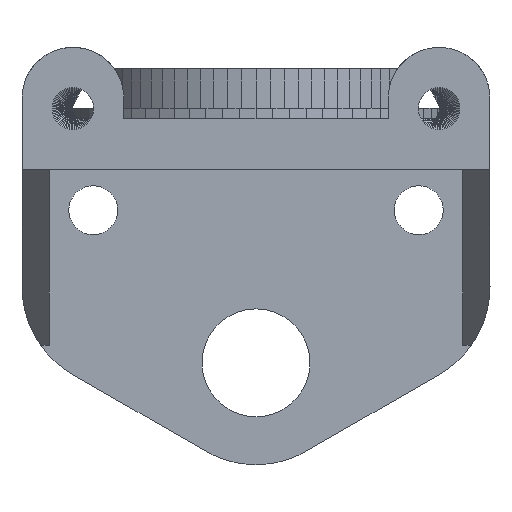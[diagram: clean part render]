
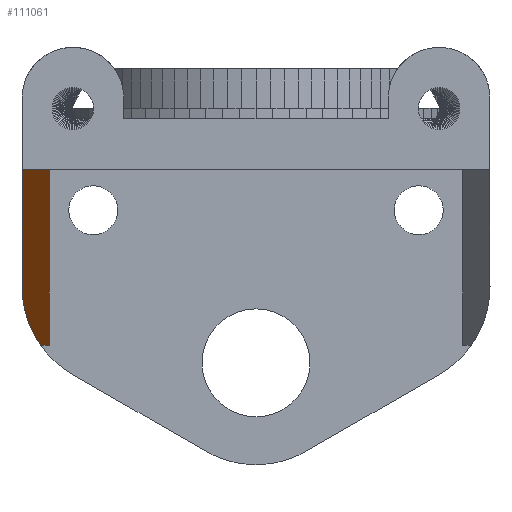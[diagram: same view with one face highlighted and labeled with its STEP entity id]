
A CAD part, front view. The second image highlights one B-rep face of the part: STEP entity #111061.
In plain terms, the highlighted planar face has unit normal (0, -0.464, -0.886).
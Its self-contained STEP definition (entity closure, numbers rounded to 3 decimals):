
#1521 = VERTEX_POINT ( 'NONE', #47573 ) ;
#2142 = CARTESIAN_POINT ( 'NONE',  ( 6.918, 9.5, 0.866 ) ) ;
#2819 = VECTOR ( 'NONE', #60820, 1000. ) ;
#6448 = VECTOR ( 'NONE', #129012, 1000. ) ;
#7340 = CARTESIAN_POINT ( 'NONE',  ( 6.468, 8.021, 1.64 ) ) ;
#8708 = ORIENTED_EDGE ( 'NONE', *, *, #10657, .T. ) ;
#10657 = EDGE_CURVE ( 'NONE', #56462, #95380, #102476, .T. ) ;
#11399 = VERTEX_POINT ( 'NONE', #127273 ) ;
#14552 = LINE ( 'NONE', #160464, #139097 ) ;
#14832 = EDGE_CURVE ( 'NONE', #122708, #117821, #119405, .T. ) ;
#15352 = ORIENTED_EDGE ( 'NONE', *, *, #33399, .T. ) ;
#16043 = VERTEX_POINT ( 'NONE', #7340 ) ;
#20482 = EDGE_CURVE ( 'NONE', #11399, #129184, #109081, .T. ) ;
#22561 = EDGE_CURVE ( 'NONE', #62438, #1521, #32833, .T. ) ;
#22731 = ORIENTED_EDGE ( 'NONE', *, *, #127344, .F. ) ;
#27300 = LINE ( 'NONE', #90746, #6448 ) ;
#32833 = LINE ( 'NONE', #109307, #153268 ) ;
#33399 = EDGE_CURVE ( 'NONE', #95707, #11399, #167484, .T. ) ;
#35127 = ORIENTED_EDGE ( 'NONE', *, *, #20482, .T. ) ;
#36042 = PLANE ( 'NONE',  #117987 ) ;
#38283 = VERTEX_POINT ( 'NONE', #94949 ) ;
#39443 = DIRECTION ( 'NONE',  ( 0., -0.464, -0.886 ) ) ;
#41384 = LINE ( 'NONE', #69177, #105846 ) ;
#42331 = DIRECTION ( 'NONE',  ( 0.235, 0.861, -0.451 ) ) ;
#47573 = CARTESIAN_POINT ( 'NONE',  ( 6., -7., 9.5 ) ) ;
#48728 = CARTESIAN_POINT ( 'NONE',  ( 7.35, 9.5, 0.866 ) ) ;
#49096 = DIRECTION ( 'NONE',  ( 0., 0.886, -0.464 ) ) ;
#49942 = LINE ( 'NONE', #102891, #154664 ) ;
#53364 = VECTOR ( 'NONE', #121128, 1000. ) ;
#53768 = VECTOR ( 'NONE', #89268, 1000. ) ;
#56462 = VERTEX_POINT ( 'NONE', #155993 ) ;
#60820 = DIRECTION ( 'NONE',  ( 0.144, 0.877, -0.459 ) ) ;
#62438 = VERTEX_POINT ( 'NONE', #108657 ) ;
#65180 = CARTESIAN_POINT ( 'NONE',  ( 6.076, 5.643, 2.885 ) ) ;
#67551 = LINE ( 'NONE', #120527, #118627 ) ;
#69075 = EDGE_CURVE ( 'NONE', #95380, #16043, #41384, .T. ) ;
#69177 = CARTESIAN_POINT ( 'NONE',  ( 6.302, 7.251, 2.043 ) ) ;
#69658 = VECTOR ( 'NONE', #71686, 1000. ) ;
#70223 = DIRECTION ( 'NONE',  ( -1., 0., 0. ) ) ;
#71686 = DIRECTION ( 'NONE',  ( 0.102, 0.881, -0.461 ) ) ;
#73641 = ORIENTED_EDGE ( 'NONE', *, *, #69075, .T. ) ;
#75343 = VECTOR ( 'NONE', #147277, 1000. ) ;
#80674 = ORIENTED_EDGE ( 'NONE', *, *, #104761, .T. ) ;
#81296 = CARTESIAN_POINT ( 'NONE',  ( 6.019, 4.814, 3.318 ) ) ;
#81697 = LINE ( 'NONE', #85118, #139009 ) ;
#85118 = CARTESIAN_POINT ( 'NONE',  ( 6., -7., 9.5 ) ) ;
#86707 = CARTESIAN_POINT ( 'NONE',  ( 6., 3.983, 3.753 ) ) ;
#87296 = ORIENTED_EDGE ( 'NONE', *, *, #123112, .T. ) ;
#89268 = DIRECTION ( 'NONE',  ( 0.02, 0.886, -0.464 ) ) ;
#90524 = CARTESIAN_POINT ( 'NONE',  ( 6.904, 9.463, 0.885 ) ) ;
#90746 = CARTESIAN_POINT ( 'NONE',  ( 7.35, -7., 9.5 ) ) ;
#94014 = ORIENTED_EDGE ( 'NONE', *, *, #117419, .T. ) ;
#94949 = CARTESIAN_POINT ( 'NONE',  ( 6.67, 8.761, 1.253 ) ) ;
#95380 = VERTEX_POINT ( 'NONE', #124334 ) ;
#95707 = VERTEX_POINT ( 'NONE', #137156 ) ;
#102476 = LINE ( 'NONE', #140717, #2819 ) ;
#102891 = CARTESIAN_POINT ( 'NONE',  ( 7.35, 9.5, 0.866 ) ) ;
#104604 = FACE_OUTER_BOUND ( 'NONE', #161284, .T. ) ;
#104761 = EDGE_CURVE ( 'NONE', #16043, #38283, #14552, .T. ) ;
#105449 = DIRECTION ( 'NONE',  ( 1., 0., 0. ) ) ;
#105846 = VECTOR ( 'NONE', #123013, 1000. ) ;
#106409 = EDGE_CURVE ( 'NONE', #129184, #56462, #165439, .T. ) ;
#108657 = CARTESIAN_POINT ( 'NONE',  ( 7.35, -7., 9.5 ) ) ;
#109081 = LINE ( 'NONE', #81296, #75343 ) ;
#109307 = CARTESIAN_POINT ( 'NONE',  ( 7.35, -7., 9.5 ) ) ;
#111061 = ADVANCED_FACE ( 'NONE', ( #104604 ), #36042, .T. ) ;
#113937 = VERTEX_POINT ( 'NONE', #48728 ) ;
#117419 = EDGE_CURVE ( 'NONE', #122708, #113937, #49942, .T. ) ;
#117821 = VERTEX_POINT ( 'NONE', #90524 ) ;
#117987 = AXIS2_PLACEMENT_3D ( 'NONE', #129825, #39443, #49096 ) ;
#118627 = VECTOR ( 'NONE', #148296, 1000. ) ;
#119405 = LINE ( 'NONE', #2142, #53364 ) ;
#120527 = CARTESIAN_POINT ( 'NONE',  ( 6.67, 8.761, 1.253 ) ) ;
#121128 = DIRECTION ( 'NONE',  ( -0.31, -0.842, 0.441 ) ) ;
#122708 = VERTEX_POINT ( 'NONE', #124082 ) ;
#123013 = DIRECTION ( 'NONE',  ( 0.189, 0.87, -0.455 ) ) ;
#123112 = EDGE_CURVE ( 'NONE', #1521, #95707, #81697, .T. ) ;
#124082 = CARTESIAN_POINT ( 'NONE',  ( 6.918, 9.5, 0.866 ) ) ;
#124334 = CARTESIAN_POINT ( 'NONE',  ( 6.302, 7.251, 2.043 ) ) ;
#125495 = CARTESIAN_POINT ( 'NONE',  ( 6.076, 5.643, 2.885 ) ) ;
#127273 = CARTESIAN_POINT ( 'NONE',  ( 6.019, 4.814, 3.318 ) ) ;
#127344 = EDGE_CURVE ( 'NONE', #62438, #113937, #27300, .T. ) ;
#129012 = DIRECTION ( 'NONE',  ( 0., 0.886, -0.464 ) ) ;
#129184 = VERTEX_POINT ( 'NONE', #65180 ) ;
#129825 = CARTESIAN_POINT ( 'NONE',  ( 7.35, -7., 9.5 ) ) ;
#135231 = ORIENTED_EDGE ( 'NONE', *, *, #14832, .F. ) ;
#137156 = CARTESIAN_POINT ( 'NONE',  ( 6., 3.983, 3.753 ) ) ;
#139009 = VECTOR ( 'NONE', #151981, 1000. ) ;
#139097 = VECTOR ( 'NONE', #42331, 1000. ) ;
#140717 = CARTESIAN_POINT ( 'NONE',  ( 6.169, 6.449, 2.462 ) ) ;
#147277 = DIRECTION ( 'NONE',  ( 0.061, 0.884, -0.463 ) ) ;
#148296 = DIRECTION ( 'NONE',  ( 0.283, 0.85, -0.445 ) ) ;
#148717 = ORIENTED_EDGE ( 'NONE', *, *, #22561, .T. ) ;
#151981 = DIRECTION ( 'NONE',  ( 0., 0.886, -0.464 ) ) ;
#153268 = VECTOR ( 'NONE', #70223, 1000. ) ;
#154312 = ORIENTED_EDGE ( 'NONE', *, *, #106409, .T. ) ;
#154664 = VECTOR ( 'NONE', #105449, 1000. ) ;
#155993 = CARTESIAN_POINT ( 'NONE',  ( 6.169, 6.449, 2.462 ) ) ;
#157382 = ORIENTED_EDGE ( 'NONE', *, *, #165144, .T. ) ;
#160464 = CARTESIAN_POINT ( 'NONE',  ( 6.468, 8.021, 1.64 ) ) ;
#161284 = EDGE_LOOP ( 'NONE', ( #22731, #148717, #87296, #15352, #35127, #154312, #8708, #73641, #80674, #157382, #135231, #94014 ) ) ;
#165144 = EDGE_CURVE ( 'NONE', #38283, #117821, #67551, .T. ) ;
#165439 = LINE ( 'NONE', #125495, #69658 ) ;
#167484 = LINE ( 'NONE', #86707, #53768 ) ;
